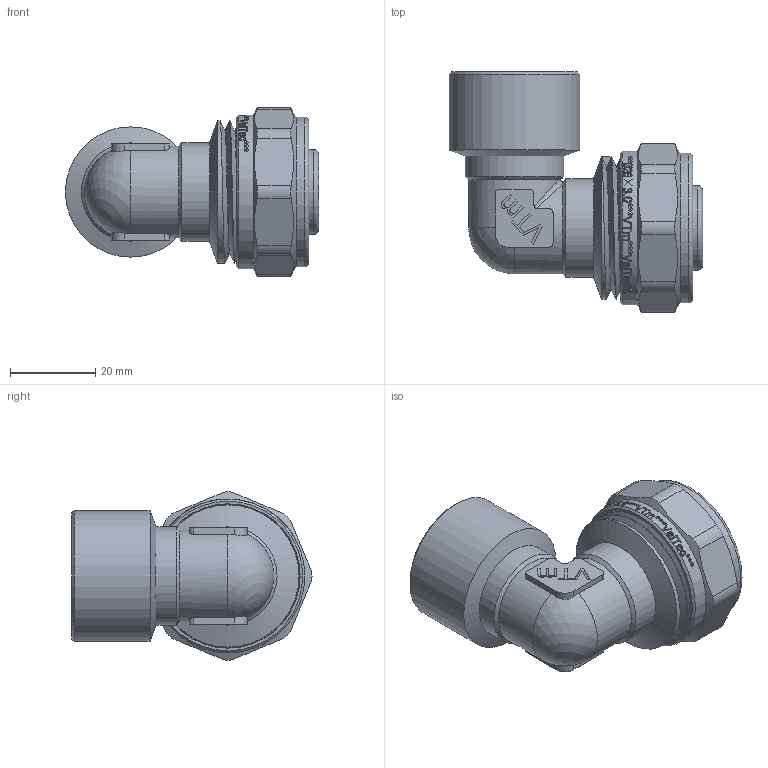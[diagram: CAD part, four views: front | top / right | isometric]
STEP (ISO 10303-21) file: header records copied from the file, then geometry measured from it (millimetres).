
FILE_DESCRIPTION(/* description */ (''),/* implementation_level */ '2;1');
FILE_NAME(/* name */ 'F:\Артём\00000\Работа удаленка\Обжимные фитинги\VTm.352.N.002605.stp',/* time_stamp */ '2020-08-06T13:21:12+03:00',/* author */ ('almis'),/* organization */ (''),/* preprocessor_version */ 'ST-DEVELOPER v18',/* originating_system */ 'Autodesk Inventor 2020',/* authorisation */ '');
FILE_SCHEMA (('AUTOMOTIVE_DESIGN { 1 0 10303 214 3 1 1 }'));
Length unit declared in the file: millimetre
Products named in the file (1): VTm.301.N.001605
Bounding box: 59.25 x 56.19 x 39.39 mm (x, y, z)
Volume: 24339.8 mm3; surface area: 21909.3 mm2
Topology: 1 solids, 1 shells, 792 faces, 2241 edges, 1509 vertices
Faces by surface type: bspline 397, plane 236, cylinder 111, torus 24, cone 22, sphere 2
Full cylindrical faces by diameter (mm): 15 x1, 17 x1, 17.4 x2, 19.8 x5, 23 x2, 24.1 x7, 24.516 x4, 25.435 x5, 26.2 x1, 26.7 x1, 27.7 x7, 28.5 x1, 28.7 x2, 30.5 x2, 33.3 x3, 35 x1, 36 x1
Entity records: 34423 total; most frequent: CARTESIAN_POINT 16455, ORIENTED_EDGE 4478, DIRECTION 2453, EDGE_CURVE 2239, VERTEX_POINT 1509, LINE 997, VECTOR 997, B_SPLINE_CURVE_WITH_KNOTS 894
